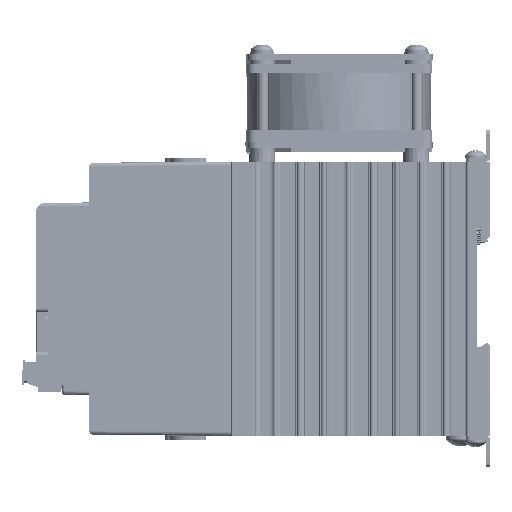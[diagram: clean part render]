
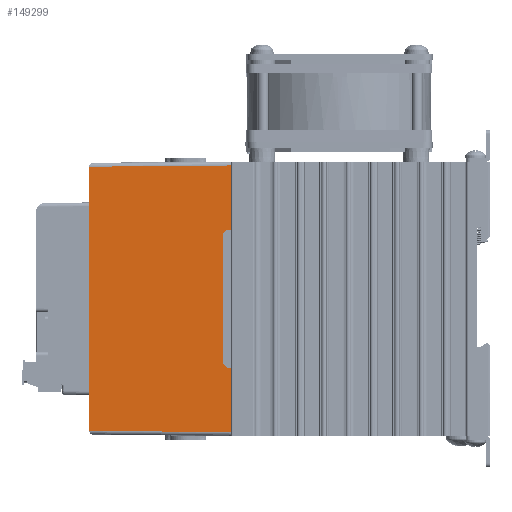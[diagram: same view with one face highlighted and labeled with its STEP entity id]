
A CAD part, left-side view. The second image highlights one B-rep face of the part: STEP entity #149299.
In plain terms, the highlighted planar face has unit normal (-1, 0.009, 0) as drawn and (1, 0, 0.009) by its records, which use the part's own axes.
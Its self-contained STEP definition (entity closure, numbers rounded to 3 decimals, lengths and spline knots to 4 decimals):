
#15290=FACE_OUTER_BOUND('',#23369,.T.);
#23369=EDGE_LOOP('',(#129494,#129495,#129496,#129497,#129498,#129499,#129500,
#129501,#129502,#129503));
#39334=LINE('',#252150,#56185);
#39464=LINE('',#252935,#56315);
#39470=LINE('',#252947,#56321);
#39474=LINE('',#252953,#56325);
#39476=LINE('',#252957,#56327);
#39478=LINE('',#252961,#56329);
#39479=LINE('',#252964,#56330);
#39824=LINE('',#253722,#56675);
#39826=LINE('',#253728,#56677);
#39827=LINE('',#253729,#56678);
#56185=VECTOR('',#193724,0.3937);
#56315=VECTOR('',#194100,0.3937);
#56321=VECTOR('',#194110,0.3937);
#56325=VECTOR('',#194118,0.3937);
#56327=VECTOR('',#194122,0.3937);
#56329=VECTOR('',#194126,0.3937);
#56330=VECTOR('',#194129,0.3937);
#56675=VECTOR('',#194854,0.3937);
#56677=VECTOR('',#194862,0.3937);
#56678=VECTOR('',#194863,0.3937);
#70092=VERTEX_POINT('',#252147);
#70093=VERTEX_POINT('',#252149);
#70196=VERTEX_POINT('',#252932);
#70197=VERTEX_POINT('',#252934);
#70200=VERTEX_POINT('',#252944);
#70201=VERTEX_POINT('',#252946);
#70202=VERTEX_POINT('',#252955);
#70203=VERTEX_POINT('',#252959);
#70204=VERTEX_POINT('',#252963);
#70404=VERTEX_POINT('',#253727);
#89984=EDGE_CURVE('',#70093,#70092,#39334,.T.);
#90172=EDGE_CURVE('',#70197,#70196,#39464,.T.);
#90178=EDGE_CURVE('',#70201,#70200,#39470,.T.);
#90182=EDGE_CURVE('',#70196,#70201,#39474,.T.);
#90184=EDGE_CURVE('',#70200,#70202,#39476,.T.);
#90186=EDGE_CURVE('',#70202,#70203,#39478,.T.);
#90187=EDGE_CURVE('',#70204,#70197,#39479,.T.);
#90553=EDGE_CURVE('',#70204,#70092,#39824,.T.);
#90556=EDGE_CURVE('',#70203,#70404,#39826,.T.);
#90557=EDGE_CURVE('',#70093,#70404,#39827,.T.);
#129494=ORIENTED_EDGE('',*,*,#90186,.T.);
#129495=ORIENTED_EDGE('',*,*,#90556,.T.);
#129496=ORIENTED_EDGE('',*,*,#90557,.F.);
#129497=ORIENTED_EDGE('',*,*,#89984,.T.);
#129498=ORIENTED_EDGE('',*,*,#90553,.F.);
#129499=ORIENTED_EDGE('',*,*,#90187,.T.);
#129500=ORIENTED_EDGE('',*,*,#90172,.T.);
#129501=ORIENTED_EDGE('',*,*,#90182,.T.);
#129502=ORIENTED_EDGE('',*,*,#90178,.T.);
#129503=ORIENTED_EDGE('',*,*,#90184,.T.);
#142287=PLANE('',#160116);
#149299=ADVANCED_FACE('',(#15290),#142287,.T.);
#160116=AXIS2_PLACEMENT_3D('',#253726,#194860,#194861);
#193724=DIRECTION('',(0.,-1.,0.));
#194100=DIRECTION('',(-0.009,0.009,1.));
#194110=DIRECTION('',(0.,1.,0.));
#194118=DIRECTION('',(-0.006,0.71,0.704));
#194122=DIRECTION('',(0.006,0.71,-0.704));
#194126=DIRECTION('',(0.009,0.009,-1.));
#194129=DIRECTION('',(0.,1.,0.));
#194854=DIRECTION('',(-0.009,0.009,1.));
#194860=DIRECTION('center_axis',(1.,0.,
0.009));
#194861=DIRECTION('ref_axis',(0.,1.,0.));
#194862=DIRECTION('',(0.,1.,0.));
#194863=DIRECTION('',(0.009,0.009,-1.));
#252147=CARTESIAN_POINT('',(1.3842,0.0658,1.811));
#252149=CARTESIAN_POINT('',(1.3842,3.4342,1.811));
#252150=CARTESIAN_POINT('',(1.3842,0.,1.811));
#252932=CARTESIAN_POINT('',(1.3995,0.8705,0.0521));
#252934=CARTESIAN_POINT('',(1.4,0.87,0.));
#252935=CARTESIAN_POINT('',(1.3996,0.8704,0.0436));
#252944=CARTESIAN_POINT('',(1.3991,2.5762,0.105));
#252946=CARTESIAN_POINT('',(1.3991,0.9238,0.105));
#252947=CARTESIAN_POINT('',(1.3991,3.0381,0.105));
#252953=CARTESIAN_POINT('',(1.3937,1.5503,0.726));
#252955=CARTESIAN_POINT('',(1.3995,2.6295,0.0521));
#252957=CARTESIAN_POINT('',(1.4015,2.859,-0.1754));
#252959=CARTESIAN_POINT('',(1.4,2.63,0.));
#252961=CARTESIAN_POINT('',(1.4,2.63,0.0023));
#252963=CARTESIAN_POINT('',(1.4,0.05,0.));
#252964=CARTESIAN_POINT('',(1.4,0.,0.));
#253722=CARTESIAN_POINT('',(1.3999,0.0501,0.0148));
#253726=CARTESIAN_POINT('Origin',(1.4,3.5,0.));
#253727=CARTESIAN_POINT('',(1.4,3.45,0.));
#253728=CARTESIAN_POINT('',(1.4,0.,0.));
#253729=CARTESIAN_POINT('',(1.4,3.45,0.0057));
